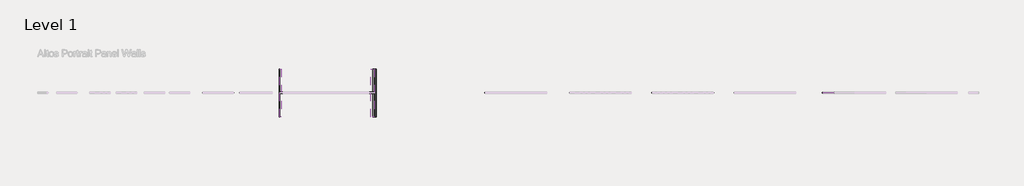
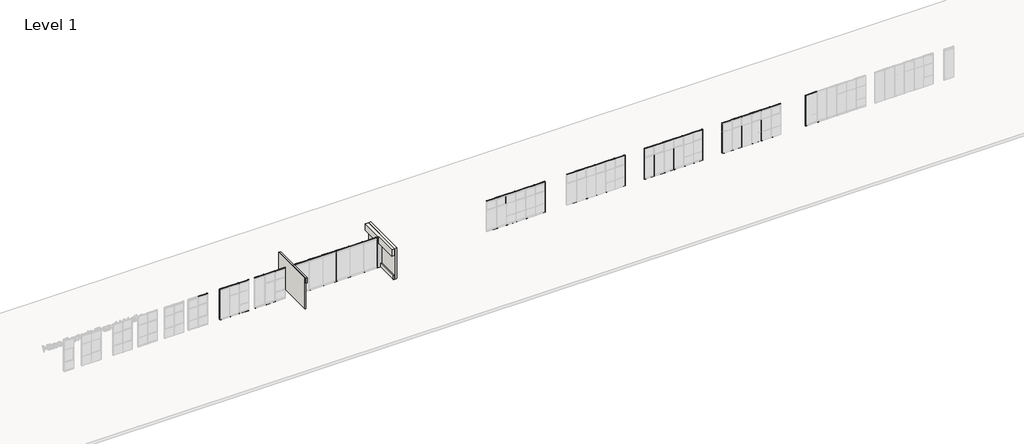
# One storey, part 3 of 22: 123 members, 5 walls, 2 plates.
"""IFC4 building model written with IfcOpenShell, lengths in millimetres."""

from ifc_helpers import new_model, si_unit, frame, origin, origin_with_axes, place, context, project, spatial, polyline, outline, extrude, faceted_brep, transform, mapped, element, save
from components import rectangular_mullion_64c34852, rectangular_mullion_58d0cef2, rectangular_mullion_50b1d124, rectangular_mullion_8e80d384, rectangular_mullion_eacba65d, rectangular_mullion_1a38ffc7, rectangular_mullion_54c82f83, rectangular_mullion_553b35be, rectangular_mullion_d5ff06bb, rectangular_mullion_frame_teknion_vertical_post_05f5e206, rectangular_mullion_frame_teknion_vertical_post_5ea4eea9, rectangular_mullion_frame_teknion_vertical_post_1fa3a907, plate_b7afd48b, plate_8aa06e61

model = new_model("IFC4")

# Units and contexts
model_context = context("Model", 3, world=origin())
ifc_project = project(units=[si_unit("LENGTHUNIT", "METRE", prefix="MILLI")], contexts=[model_context])

# Site, building, storey
site = spatial("IfcSite", under=ifc_project)
building = spatial("IfcBuilding", under=site)
storey = spatial("IfcBuildingStorey", under=building, Name="Level 1", Elevation=0.0)

# Members
placement = place(None, origin())
rectangular_mullion_shape = rectangular_mullion_64c34852(model_context)
element("IfcMember", 1, ObjectType="Rectangular Mullion : Frame-Teknion-Altos-Ceiling_Channel", at=placement, inside=storey, context=model_context, shape_type="MappedRepresentation", body=[
    mapped(rectangular_mullion_shape, transform((2463.5069004, 1812.3522105, 3048.0), x_axis=(0.0, 0.0, 1.0), y_axis=(0.0, -1.0, 0.0), z_axis=(1.0, 0.0, 0.0))),
])
element("IfcMember", 2, ObjectType="Rectangular Mullion : Frame-Teknion-Altos-Ceiling_Channel", at=placement, inside=storey, context=model_context, shape_type="MappedRepresentation", body=[
    mapped(rectangular_mullion_shape, transform((547.0967442, 1812.3522105, 3048.0), x_axis=(0.0, 0.0, 1.0), y_axis=(0.0, -1.0, 0.0), z_axis=(1.0, 0.0, 0.0))),
])
rectangular_mullion_2_shape = rectangular_mullion_58d0cef2(model_context)
element("IfcMember", 3, ObjectType="Rectangular Mullion : Frame-Teknion-Altos-Base_Channel", at=placement, inside=storey, context=model_context, shape_type="MappedRepresentation", body=[
    mapped(rectangular_mullion_2_shape, transform((-376.1337246, 1812.3522105, 0.0), x_axis=(0.0, 0.0, -1.0), y_axis=(0.0, -1.0, 0.0), z_axis=(-1.0, 0.0, 0.0))),
])
element("IfcMember", 4, ObjectType="Rectangular Mullion : Frame-Teknion-Altos-Base_Channel", at=placement, inside=storey, context=model_context, shape_type="MappedRepresentation", body=[
    mapped(rectangular_mullion_2_shape, transform((1540.2764317, 1812.3522105, 0.0), x_axis=(0.0, 0.0, -1.0), y_axis=(0.0, -1.0, 0.0), z_axis=(-1.0, 0.0, 0.0))),
])
rectangular_mullion_3_shape = rectangular_mullion_50b1d124(model_context)
element("IfcMember", 5, ObjectType="Rectangular Mullion : Frame-Teknion-Altos-Base_Channel", at=placement, inside=storey, context=model_context, shape_type="MappedRepresentation", body=[
    mapped(rectangular_mullion_3_shape, transform((575.0764317, 1812.3522105, 0.0), x_axis=(0.0, 0.0, -1.0), y_axis=(0.0, -1.0, 0.0), z_axis=(-1.0, 0.0, 0.0))),
])
element("IfcMember", 6, ObjectType="Rectangular Mullion : Frame-Teknion-Altos-Ceiling_Channel", at=placement, inside=storey, context=model_context, shape_type="MappedRepresentation", body=[
    mapped(rectangular_mullion_3_shape, transform((1512.2967442, 1812.3522105, 3048.0), x_axis=(0.0, 0.0, 1.0), y_axis=(0.0, -1.0, 0.0), z_axis=(1.0, 0.0, 0.0))),
])
rectangular_mullion_4_shape = rectangular_mullion_8e80d384(model_context)
element("IfcMember", 7, ObjectType="Rectangular Mullion : Frame-Teknion-Altos-Base_Channel", at=placement, inside=storey, context=model_context, shape_type="MappedRepresentation", body=[
    mapped(rectangular_mullion_4_shape, transform((51403.4018866, 1812.3522105, 0.0), x_axis=(0.0, 0.0, -1.0), y_axis=(0.0, -1.0, 0.0), z_axis=(-1.0, 0.0, 0.0))),
])
rectangular_mullion_5_shape = rectangular_mullion_eacba65d(model_context)
element("IfcMember", 8, ObjectType="Rectangular Mullion : Frame-Teknion-Altos-Ceiling_Channel", at=placement, inside=storey, context=model_context, shape_type="MappedRepresentation", body=[
    mapped(rectangular_mullion_5_shape, transform((52428.2323554, 1812.3522105, 3048.0), x_axis=(0.0, 0.0, 1.0), y_axis=(0.0, -1.0, 0.0), z_axis=(1.0, 0.0, 0.0))),
])
rectangular_mullion_6_shape = rectangular_mullion_1a38ffc7(model_context)
element("IfcMember", 9, ObjectType="Rectangular Mullion : Frame-Teknion-Altos-Base_Channel", at=placement, inside=storey, context=model_context, shape_type="MappedRepresentation", body=[
    mapped(rectangular_mullion_6_shape, transform((3445.2764317, 1812.3522105, 0.0), x_axis=(0.0, 0.0, -1.0), y_axis=(0.0, -1.0, 0.0), z_axis=(-1.0, 0.0, 0.0))),
])
element("IfcMember", 10, ObjectType="Rectangular Mullion : Frame-Teknion-Altos-Base_Channel", at=placement, inside=storey, context=model_context, shape_type="MappedRepresentation", body=[
    mapped(rectangular_mullion_6_shape, transform((5997.9764317, 1812.3522105, 0.0), x_axis=(0.0, 0.0, -1.0), y_axis=(0.0, -1.0, 0.0), z_axis=(-1.0, 0.0, 0.0))),
])
element("IfcMember", 11, ObjectType="Rectangular Mullion : Frame-Teknion-Altos-Base_Channel", at=placement, inside=storey, context=model_context, shape_type="MappedRepresentation", body=[
    mapped(rectangular_mullion_6_shape, transform((7274.3264317, 1812.3522105, 0.0), x_axis=(0.0, 0.0, -1.0), y_axis=(0.0, -1.0, 0.0), z_axis=(-1.0, 0.0, 0.0))),
])
element("IfcMember", 12, ObjectType="Rectangular Mullion : Frame-Teknion-Altos-Base_Channel", at=placement, inside=storey, context=model_context, shape_type="MappedRepresentation", body=[
    mapped(rectangular_mullion_6_shape, transform((8550.6764317, 1812.3522105, 0.0), x_axis=(0.0, 0.0, -1.0), y_axis=(0.0, -1.0, 0.0), z_axis=(-1.0, 0.0, 0.0))),
])
element("IfcMember", 13, ObjectType="Rectangular Mullion : Frame-Teknion-Altos-Base_Channel", at=placement, inside=storey, context=model_context, shape_type="MappedRepresentation", body=[
    mapped(rectangular_mullion_6_shape, transform((4721.6264317, 1812.3522105, 0.0), x_axis=(0.0, 0.0, -1.0), y_axis=(0.0, -1.0, 0.0), z_axis=(-1.0, 0.0, 0.0))),
])
element("IfcMember", 14, ObjectType="Rectangular Mullion : Frame-Teknion-Altos-Base_Channel", at=placement, inside=storey, context=model_context, shape_type="MappedRepresentation", body=[
    mapped(rectangular_mullion_6_shape, transform((9827.0264317, 1812.3522105, 0.0), x_axis=(0.0, 0.0, -1.0), y_axis=(0.0, -1.0, 0.0), z_axis=(-1.0, 0.0, 0.0))),
])
element("IfcMember", 15, ObjectType="Rectangular Mullion : Frame-Teknion-Altos-Ceiling_Channel", at=placement, inside=storey, context=model_context, shape_type="MappedRepresentation", body=[
    mapped(rectangular_mullion_6_shape, transform((5969.9967442, 1812.3522105, 3048.0), x_axis=(0.0, 0.0, 1.0), y_axis=(0.0, -1.0, 0.0), z_axis=(1.0, 0.0, 0.0))),
])
element("IfcMember", 16, ObjectType="Rectangular Mullion : Frame-Teknion-Altos-Ceiling_Channel", at=placement, inside=storey, context=model_context, shape_type="MappedRepresentation", body=[
    mapped(rectangular_mullion_6_shape, transform((7246.3467442, 1812.3522105, 3048.0), x_axis=(0.0, 0.0, 1.0), y_axis=(0.0, -1.0, 0.0), z_axis=(1.0, 0.0, 0.0))),
])
element("IfcMember", 17, ObjectType="Rectangular Mullion : Frame-Teknion-Altos-Ceiling_Channel", at=placement, inside=storey, context=model_context, shape_type="MappedRepresentation", body=[
    mapped(rectangular_mullion_6_shape, transform((8522.6967442, 1812.3522105, 3048.0), x_axis=(0.0, 0.0, 1.0), y_axis=(0.0, -1.0, 0.0), z_axis=(1.0, 0.0, 0.0))),
])
element("IfcMember", 18, ObjectType="Rectangular Mullion : Frame-Teknion-Altos-Ceiling_Channel", at=placement, inside=storey, context=model_context, shape_type="MappedRepresentation", body=[
    mapped(rectangular_mullion_6_shape, transform((11075.3967442, 1812.3522105, 3048.0), x_axis=(0.0, 0.0, 1.0), y_axis=(0.0, -1.0, 0.0), z_axis=(1.0, 0.0, 0.0))),
])
element("IfcMember", 19, ObjectType="Rectangular Mullion : Frame-Teknion-Altos-Ceiling_Channel", at=placement, inside=storey, context=model_context, shape_type="MappedRepresentation", body=[
    mapped(rectangular_mullion_6_shape, transform((4693.6467442, 1812.3522105, 3048.0), x_axis=(0.0, 0.0, 1.0), y_axis=(0.0, -1.0, 0.0), z_axis=(1.0, 0.0, 0.0))),
])
element("IfcMember", 20, ObjectType="Rectangular Mullion : Frame-Teknion-Altos-Ceiling_Channel", at=placement, inside=storey, context=model_context, shape_type="MappedRepresentation", body=[
    mapped(rectangular_mullion_6_shape, transform((9799.0467442, 1812.3522105, 3048.0), x_axis=(0.0, 0.0, 1.0), y_axis=(0.0, -1.0, 0.0), z_axis=(1.0, 0.0, 0.0))),
])
rectangular_mullion_7_shape = rectangular_mullion_54c82f83(model_context)
element("IfcMember", 21, ObjectType="Rectangular Mullion : Frame-Teknion-Altos-Ceiling_Channel", at=placement, inside=storey, context=model_context, shape_type="MappedRepresentation", body=[
    mapped(rectangular_mullion_7_shape, transform((-965.4930996, 1812.3522105, 3048.0), x_axis=(0.0, 0.0, 1.0), y_axis=(0.0, -1.0, 0.0), z_axis=(1.0, 0.0, 0.0))),
])
element("IfcMember", 22, ObjectType="Rectangular Mullion : Frame-Teknion-Altos-Ceiling_Channel", at=placement, inside=storey, context=model_context, shape_type="MappedRepresentation", body=[
    mapped(rectangular_mullion_7_shape, transform((-2780.3032558, 1812.3522105, 3048.0), x_axis=(0.0, 0.0, 1.0), y_axis=(0.0, -1.0, 0.0), z_axis=(1.0, 0.0, 0.0))),
])
element("IfcMember", 23, ObjectType="Rectangular Mullion : Frame-Teknion-Altos-Ceiling_Channel", at=placement, inside=storey, context=model_context, shape_type="MappedRepresentation", body=[
    mapped(rectangular_mullion_7_shape, transform((26857.616204, 1812.3522105, 3048.0), x_axis=(0.0, 0.0, 1.0), y_axis=(0.0, -1.0, 0.0), z_axis=(1.0, 0.0, 0.0))),
])
element("IfcMember", 24, ObjectType="Rectangular Mullion : Frame-Teknion-Altos-Ceiling_Channel", at=placement, inside=storey, context=model_context, shape_type="MappedRepresentation", body=[
    mapped(rectangular_mullion_7_shape, transform((34376.016204, 1812.3522105, 3048.0), x_axis=(0.0, 0.0, 1.0), y_axis=(0.0, -1.0, 0.0), z_axis=(1.0, 0.0, 0.0))),
])
element("IfcMember", 25, ObjectType="Rectangular Mullion : Frame-Teknion-Altos-Ceiling_Channel", at=placement, inside=storey, context=model_context, shape_type="MappedRepresentation", body=[
    mapped(rectangular_mullion_7_shape, transform((29818.0060478, 1812.3522105, 3048.0), x_axis=(0.0, 0.0, 1.0), y_axis=(0.0, -1.0, 0.0), z_axis=(1.0, 0.0, 0.0))),
])
element("IfcMember", 26, ObjectType="Rectangular Mullion : Frame-Teknion-Altos-Ceiling_Channel", at=placement, inside=storey, context=model_context, shape_type="MappedRepresentation", body=[
    mapped(rectangular_mullion_7_shape, transform((41691.216204, 1812.3522105, 3048.0), x_axis=(0.0, 0.0, 1.0), y_axis=(0.0, -1.0, 0.0), z_axis=(1.0, 0.0, 0.0))),
])
element("IfcMember", 27, ObjectType="Rectangular Mullion : Frame-Teknion-Altos-Ceiling_Channel", at=placement, inside=storey, context=model_context, shape_type="MappedRepresentation", body=[
    mapped(rectangular_mullion_7_shape, transform((37133.2060478, 1812.3522105, 3048.0), x_axis=(0.0, 0.0, 1.0), y_axis=(0.0, -1.0, 0.0), z_axis=(1.0, 0.0, 0.0))),
])
element("IfcMember", 28, ObjectType="Rectangular Mullion : Frame-Teknion-Altos-Ceiling_Channel", at=placement, inside=storey, context=model_context, shape_type="MappedRepresentation", body=[
    mapped(rectangular_mullion_7_shape, transform((49006.416204, 1812.3522105, 3048.0), x_axis=(0.0, 0.0, 1.0), y_axis=(0.0, -1.0, 0.0), z_axis=(1.0, 0.0, 0.0))),
])
element("IfcMember", 29, ObjectType="Rectangular Mullion : Frame-Teknion-Altos-Ceiling_Channel", at=placement, inside=storey, context=model_context, shape_type="MappedRepresentation", body=[
    mapped(rectangular_mullion_7_shape, transform((44448.4060478, 1812.3522105, 3048.0), x_axis=(0.0, 0.0, 1.0), y_axis=(0.0, -1.0, 0.0), z_axis=(1.0, 0.0, 0.0))),
])
element("IfcMember", 30, ObjectType="Rectangular Mullion : Frame-Teknion-Altos-Ceiling_Channel", at=placement, inside=storey, context=model_context, shape_type="MappedRepresentation", body=[
    mapped(rectangular_mullion_7_shape, transform((22299.6060478, 1812.3522105, 3048.0), x_axis=(0.0, 0.0, 1.0), y_axis=(0.0, -1.0, 0.0), z_axis=(1.0, 0.0, 0.0))),
])
element("IfcMember", 31, ObjectType="Rectangular Mullion : Frame-Teknion-Altos-Ceiling_Channel", at=placement, inside=storey, context=model_context, shape_type="MappedRepresentation", body=[
    mapped(rectangular_mullion_7_shape, transform((-4843.8756944, 1812.3522105, 3048.0), x_axis=(0.0, 0.0, 1.0), y_axis=(0.0, -1.0, 0.0), z_axis=(1.0, 0.0, 0.0))),
])
rectangular_mullion_8_shape = rectangular_mullion_553b35be(model_context)
element("IfcMember", 32, ObjectType="Rectangular Mullion : Frame-Teknion-Altos-Base_Channel", at=placement, inside=storey, context=model_context, shape_type="MappedRepresentation", body=[
    mapped(rectangular_mullion_8_shape, transform((-3652.7337246, 1812.3522105, 0.0), x_axis=(0.0, 0.0, -1.0), y_axis=(0.0, -1.0, 0.0), z_axis=(-1.0, 0.0, 0.0))),
])
element("IfcMember", 33, ObjectType="Rectangular Mullion : Frame-Teknion-Altos-Base_Channel", at=placement, inside=storey, context=model_context, shape_type="MappedRepresentation", body=[
    mapped(rectangular_mullion_8_shape, transform((-1837.9235683, 1812.3522105, 0.0), x_axis=(0.0, 0.0, -1.0), y_axis=(0.0, -1.0, 0.0), z_axis=(-1.0, 0.0, 0.0))),
])
element("IfcMember", 34, ObjectType="Rectangular Mullion : Frame-Teknion-Altos-Base_Channel", at=placement, inside=storey, context=model_context, shape_type="MappedRepresentation", body=[
    mapped(rectangular_mullion_8_shape, transform((21427.175579, 1812.3522105, 0.0), x_axis=(0.0, 0.0, -1.0), y_axis=(0.0, -1.0, 0.0), z_axis=(-1.0, 0.0, 0.0))),
])
element("IfcMember", 35, ObjectType="Rectangular Mullion : Frame-Teknion-Altos-Base_Channel", at=placement, inside=storey, context=model_context, shape_type="MappedRepresentation", body=[
    mapped(rectangular_mullion_8_shape, transform((28945.575579, 1812.3522105, 0.0), x_axis=(0.0, 0.0, -1.0), y_axis=(0.0, -1.0, 0.0), z_axis=(-1.0, 0.0, 0.0))),
])
element("IfcMember", 36, ObjectType="Rectangular Mullion : Frame-Teknion-Altos-Base_Channel", at=placement, inside=storey, context=model_context, shape_type="MappedRepresentation", body=[
    mapped(rectangular_mullion_8_shape, transform((33503.5857353, 1812.3522105, 0.0), x_axis=(0.0, 0.0, -1.0), y_axis=(0.0, -1.0, 0.0), z_axis=(-1.0, 0.0, 0.0))),
])
element("IfcMember", 37, ObjectType="Rectangular Mullion : Frame-Teknion-Altos-Base_Channel", at=placement, inside=storey, context=model_context, shape_type="MappedRepresentation", body=[
    mapped(rectangular_mullion_8_shape, transform((36260.775579, 1812.3522105, 0.0), x_axis=(0.0, 0.0, -1.0), y_axis=(0.0, -1.0, 0.0), z_axis=(-1.0, 0.0, 0.0))),
])
element("IfcMember", 38, ObjectType="Rectangular Mullion : Frame-Teknion-Altos-Base_Channel", at=placement, inside=storey, context=model_context, shape_type="MappedRepresentation", body=[
    mapped(rectangular_mullion_8_shape, transform((40818.7857353, 1812.3522105, 0.0), x_axis=(0.0, 0.0, -1.0), y_axis=(0.0, -1.0, 0.0), z_axis=(-1.0, 0.0, 0.0))),
])
element("IfcMember", 39, ObjectType="Rectangular Mullion : Frame-Teknion-Altos-Base_Channel", at=placement, inside=storey, context=model_context, shape_type="MappedRepresentation", body=[
    mapped(rectangular_mullion_8_shape, transform((43575.975579, 1812.3522105, 0.0), x_axis=(0.0, 0.0, -1.0), y_axis=(0.0, -1.0, 0.0), z_axis=(-1.0, 0.0, 0.0))),
])
element("IfcMember", 40, ObjectType="Rectangular Mullion : Frame-Teknion-Altos-Base_Channel", at=placement, inside=storey, context=model_context, shape_type="MappedRepresentation", body=[
    mapped(rectangular_mullion_8_shape, transform((48133.9857353, 1812.3522105, 0.0), x_axis=(0.0, 0.0, -1.0), y_axis=(0.0, -1.0, 0.0), z_axis=(-1.0, 0.0, 0.0))),
])
element("IfcMember", 41, ObjectType="Rectangular Mullion : Frame-Teknion-Altos-Base_Channel", at=placement, inside=storey, context=model_context, shape_type="MappedRepresentation", body=[
    mapped(rectangular_mullion_8_shape, transform((25985.1857353, 1812.3522105, 0.0), x_axis=(0.0, 0.0, -1.0), y_axis=(0.0, -1.0, 0.0), z_axis=(-1.0, 0.0, 0.0))),
])
rectangular_mullion_9_shape = rectangular_mullion_d5ff06bb(model_context)
element("IfcMember", 42, ObjectType="Rectangular Mullion : Frame-Teknion-Altos-Base_Channel", at=placement, inside=storey, context=model_context, shape_type="MappedRepresentation", body=[
    mapped(rectangular_mullion_9_shape, transform((-2752.3235683, 1812.3522105, 0.0), x_axis=(0.0, 0.0, -1.0), y_axis=(0.0, -1.0, 0.0), z_axis=(-1.0, 0.0, 0.0))),
])
element("IfcMember", 43, ObjectType="Rectangular Mullion : Frame-Teknion-Altos-Base_Channel", at=placement, inside=storey, context=model_context, shape_type="MappedRepresentation", body=[
    mapped(rectangular_mullion_9_shape, transform((52456.2120429, 1812.3522105, 0.0), x_axis=(0.0, 0.0, -1.0), y_axis=(0.0, -1.0, 0.0), z_axis=(-1.0, 0.0, 0.0))),
])
element("IfcMember", 44, ObjectType="Rectangular Mullion : Frame-Teknion-Altos-Base_Channel", at=placement, inside=storey, context=model_context, shape_type="MappedRepresentation", body=[
    mapped(rectangular_mullion_9_shape, transform((24156.3857353, 1812.3522105, 0.0), x_axis=(0.0, 0.0, -1.0), y_axis=(0.0, -1.0, 0.0), z_axis=(-1.0, 0.0, 0.0))),
])
element("IfcMember", 45, ObjectType="Rectangular Mullion : Frame-Teknion-Altos-Base_Channel", at=placement, inside=storey, context=model_context, shape_type="MappedRepresentation", body=[
    mapped(rectangular_mullion_9_shape, transform((23241.9857353, 1812.3522105, 0.0), x_axis=(0.0, 0.0, -1.0), y_axis=(0.0, -1.0, 0.0), z_axis=(-1.0, 0.0, 0.0))),
])
element("IfcMember", 46, ObjectType="Rectangular Mullion : Frame-Teknion-Altos-Base_Channel", at=placement, inside=storey, context=model_context, shape_type="MappedRepresentation", body=[
    mapped(rectangular_mullion_9_shape, transform((32589.1857353, 1812.3522105, 0.0), x_axis=(0.0, 0.0, -1.0), y_axis=(0.0, -1.0, 0.0), z_axis=(-1.0, 0.0, 0.0))),
])
element("IfcMember", 47, ObjectType="Rectangular Mullion : Frame-Teknion-Altos-Base_Channel", at=placement, inside=storey, context=model_context, shape_type="MappedRepresentation", body=[
    mapped(rectangular_mullion_9_shape, transform((31674.7857353, 1812.3522105, 0.0), x_axis=(0.0, 0.0, -1.0), y_axis=(0.0, -1.0, 0.0), z_axis=(-1.0, 0.0, 0.0))),
])
element("IfcMember", 48, ObjectType="Rectangular Mullion : Frame-Teknion-Altos-Base_Channel", at=placement, inside=storey, context=model_context, shape_type="MappedRepresentation", body=[
    mapped(rectangular_mullion_9_shape, transform((30760.3857353, 1812.3522105, 0.0), x_axis=(0.0, 0.0, -1.0), y_axis=(0.0, -1.0, 0.0), z_axis=(-1.0, 0.0, 0.0))),
])
element("IfcMember", 49, ObjectType="Rectangular Mullion : Frame-Teknion-Altos-Base_Channel", at=placement, inside=storey, context=model_context, shape_type="MappedRepresentation", body=[
    mapped(rectangular_mullion_9_shape, transform((29845.9857353, 1812.3522105, 0.0), x_axis=(0.0, 0.0, -1.0), y_axis=(0.0, -1.0, 0.0), z_axis=(-1.0, 0.0, 0.0))),
])
element("IfcMember", 50, ObjectType="Rectangular Mullion : Frame-Teknion-Altos-Base_Channel", at=placement, inside=storey, context=model_context, shape_type="MappedRepresentation", body=[
    mapped(rectangular_mullion_9_shape, transform((39904.3857353, 1812.3522105, 0.0), x_axis=(0.0, 0.0, -1.0), y_axis=(0.0, -1.0, 0.0), z_axis=(-1.0, 0.0, 0.0))),
])
element("IfcMember", 51, ObjectType="Rectangular Mullion : Frame-Teknion-Altos-Base_Channel", at=placement, inside=storey, context=model_context, shape_type="MappedRepresentation", body=[
    mapped(rectangular_mullion_9_shape, transform((38989.9857353, 1812.3522105, 0.0), x_axis=(0.0, 0.0, -1.0), y_axis=(0.0, -1.0, 0.0), z_axis=(-1.0, 0.0, 0.0))),
])
element("IfcMember", 52, ObjectType="Rectangular Mullion : Frame-Teknion-Altos-Base_Channel", at=placement, inside=storey, context=model_context, shape_type="MappedRepresentation", body=[
    mapped(rectangular_mullion_9_shape, transform((38075.5857353, 1812.3522105, 0.0), x_axis=(0.0, 0.0, -1.0), y_axis=(0.0, -1.0, 0.0), z_axis=(-1.0, 0.0, 0.0))),
])
element("IfcMember", 53, ObjectType="Rectangular Mullion : Frame-Teknion-Altos-Base_Channel", at=placement, inside=storey, context=model_context, shape_type="MappedRepresentation", body=[
    mapped(rectangular_mullion_9_shape, transform((37161.1857353, 1812.3522105, 0.0), x_axis=(0.0, 0.0, -1.0), y_axis=(0.0, -1.0, 0.0), z_axis=(-1.0, 0.0, 0.0))),
])
element("IfcMember", 54, ObjectType="Rectangular Mullion : Frame-Teknion-Altos-Base_Channel", at=placement, inside=storey, context=model_context, shape_type="MappedRepresentation", body=[
    mapped(rectangular_mullion_9_shape, transform((47219.5857353, 1812.3522105, 0.0), x_axis=(0.0, 0.0, -1.0), y_axis=(0.0, -1.0, 0.0), z_axis=(-1.0, 0.0, 0.0))),
])
element("IfcMember", 55, ObjectType="Rectangular Mullion : Frame-Teknion-Altos-Base_Channel", at=placement, inside=storey, context=model_context, shape_type="MappedRepresentation", body=[
    mapped(rectangular_mullion_9_shape, transform((46305.1857353, 1812.3522105, 0.0), x_axis=(0.0, 0.0, -1.0), y_axis=(0.0, -1.0, 0.0), z_axis=(-1.0, 0.0, 0.0))),
])
element("IfcMember", 56, ObjectType="Rectangular Mullion : Frame-Teknion-Altos-Base_Channel", at=placement, inside=storey, context=model_context, shape_type="MappedRepresentation", body=[
    mapped(rectangular_mullion_9_shape, transform((45390.7857353, 1812.3522105, 0.0), x_axis=(0.0, 0.0, -1.0), y_axis=(0.0, -1.0, 0.0), z_axis=(-1.0, 0.0, 0.0))),
])
element("IfcMember", 57, ObjectType="Rectangular Mullion : Frame-Teknion-Altos-Base_Channel", at=placement, inside=storey, context=model_context, shape_type="MappedRepresentation", body=[
    mapped(rectangular_mullion_9_shape, transform((44476.3857353, 1812.3522105, 0.0), x_axis=(0.0, 0.0, -1.0), y_axis=(0.0, -1.0, 0.0), z_axis=(-1.0, 0.0, 0.0))),
])
element("IfcMember", 58, ObjectType="Rectangular Mullion : Frame-Teknion-Altos-Base_Channel", at=placement, inside=storey, context=model_context, shape_type="MappedRepresentation", body=[
    mapped(rectangular_mullion_9_shape, transform((22327.5857353, 1812.3522105, 0.0), x_axis=(0.0, 0.0, -1.0), y_axis=(0.0, -1.0, 0.0), z_axis=(-1.0, 0.0, 0.0))),
])
element("IfcMember", 59, ObjectType="Rectangular Mullion : Frame-Teknion-Altos-Base_Channel", at=placement, inside=storey, context=model_context, shape_type="MappedRepresentation", body=[
    mapped(rectangular_mullion_9_shape, transform((25070.7857353, 1812.3522105, 0.0), x_axis=(0.0, 0.0, -1.0), y_axis=(0.0, -1.0, 0.0), z_axis=(-1.0, 0.0, 0.0))),
])
element("IfcMember", 60, ObjectType="Rectangular Mullion : Frame-Teknion-Altos-Ceiling_Channel", at=placement, inside=storey, context=model_context, shape_type="MappedRepresentation", body=[
    mapped(rectangular_mullion_9_shape, transform((-1865.9032558, 1812.3522105, 3048.0), x_axis=(0.0, 0.0, 1.0), y_axis=(0.0, -1.0, 0.0), z_axis=(1.0, 0.0, 0.0))),
])
element("IfcMember", 61, ObjectType="Rectangular Mullion : Frame-Teknion-Altos-Ceiling_Channel", at=placement, inside=storey, context=model_context, shape_type="MappedRepresentation", body=[
    mapped(rectangular_mullion_9_shape, transform((24128.4060478, 1812.3522105, 3048.0), x_axis=(0.0, 0.0, 1.0), y_axis=(0.0, -1.0, 0.0), z_axis=(1.0, 0.0, 0.0))),
])
element("IfcMember", 62, ObjectType="Rectangular Mullion : Frame-Teknion-Altos-Ceiling_Channel", at=placement, inside=storey, context=model_context, shape_type="MappedRepresentation", body=[
    mapped(rectangular_mullion_9_shape, transform((23214.0060478, 1812.3522105, 3048.0), x_axis=(0.0, 0.0, 1.0), y_axis=(0.0, -1.0, 0.0), z_axis=(1.0, 0.0, 0.0))),
])
element("IfcMember", 63, ObjectType="Rectangular Mullion : Frame-Teknion-Altos-Ceiling_Channel", at=placement, inside=storey, context=model_context, shape_type="MappedRepresentation", body=[
    mapped(rectangular_mullion_9_shape, transform((33475.6060478, 1812.3522105, 3048.0), x_axis=(0.0, 0.0, 1.0), y_axis=(0.0, -1.0, 0.0), z_axis=(1.0, 0.0, 0.0))),
])
element("IfcMember", 64, ObjectType="Rectangular Mullion : Frame-Teknion-Altos-Ceiling_Channel", at=placement, inside=storey, context=model_context, shape_type="MappedRepresentation", body=[
    mapped(rectangular_mullion_9_shape, transform((32561.2060478, 1812.3522105, 3048.0), x_axis=(0.0, 0.0, 1.0), y_axis=(0.0, -1.0, 0.0), z_axis=(1.0, 0.0, 0.0))),
])
element("IfcMember", 65, ObjectType="Rectangular Mullion : Frame-Teknion-Altos-Ceiling_Channel", at=placement, inside=storey, context=model_context, shape_type="MappedRepresentation", body=[
    mapped(rectangular_mullion_9_shape, transform((31646.8060478, 1812.3522105, 3048.0), x_axis=(0.0, 0.0, 1.0), y_axis=(0.0, -1.0, 0.0), z_axis=(1.0, 0.0, 0.0))),
])
element("IfcMember", 66, ObjectType="Rectangular Mullion : Frame-Teknion-Altos-Ceiling_Channel", at=placement, inside=storey, context=model_context, shape_type="MappedRepresentation", body=[
    mapped(rectangular_mullion_9_shape, transform((30732.4060478, 1812.3522105, 3048.0), x_axis=(0.0, 0.0, 1.0), y_axis=(0.0, -1.0, 0.0), z_axis=(1.0, 0.0, 0.0))),
])
element("IfcMember", 67, ObjectType="Rectangular Mullion : Frame-Teknion-Altos-Ceiling_Channel", at=placement, inside=storey, context=model_context, shape_type="MappedRepresentation", body=[
    mapped(rectangular_mullion_9_shape, transform((40790.8060478, 1812.3522105, 3048.0), x_axis=(0.0, 0.0, 1.0), y_axis=(0.0, -1.0, 0.0), z_axis=(1.0, 0.0, 0.0))),
])
element("IfcMember", 68, ObjectType="Rectangular Mullion : Frame-Teknion-Altos-Ceiling_Channel", at=placement, inside=storey, context=model_context, shape_type="MappedRepresentation", body=[
    mapped(rectangular_mullion_9_shape, transform((39876.4060478, 1812.3522105, 3048.0), x_axis=(0.0, 0.0, 1.0), y_axis=(0.0, -1.0, 0.0), z_axis=(1.0, 0.0, 0.0))),
])
element("IfcMember", 69, ObjectType="Rectangular Mullion : Frame-Teknion-Altos-Ceiling_Channel", at=placement, inside=storey, context=model_context, shape_type="MappedRepresentation", body=[
    mapped(rectangular_mullion_9_shape, transform((38962.0060478, 1812.3522105, 3048.0), x_axis=(0.0, 0.0, 1.0), y_axis=(0.0, -1.0, 0.0), z_axis=(1.0, 0.0, 0.0))),
])
element("IfcMember", 70, ObjectType="Rectangular Mullion : Frame-Teknion-Altos-Ceiling_Channel", at=placement, inside=storey, context=model_context, shape_type="MappedRepresentation", body=[
    mapped(rectangular_mullion_9_shape, transform((38047.6060478, 1812.3522105, 3048.0), x_axis=(0.0, 0.0, 1.0), y_axis=(0.0, -1.0, 0.0), z_axis=(1.0, 0.0, 0.0))),
])
element("IfcMember", 71, ObjectType="Rectangular Mullion : Frame-Teknion-Altos-Ceiling_Channel", at=placement, inside=storey, context=model_context, shape_type="MappedRepresentation", body=[
    mapped(rectangular_mullion_9_shape, transform((48106.0060478, 1812.3522105, 3048.0), x_axis=(0.0, 0.0, 1.0), y_axis=(0.0, -1.0, 0.0), z_axis=(1.0, 0.0, 0.0))),
])
element("IfcMember", 72, ObjectType="Rectangular Mullion : Frame-Teknion-Altos-Ceiling_Channel", at=placement, inside=storey, context=model_context, shape_type="MappedRepresentation", body=[
    mapped(rectangular_mullion_9_shape, transform((47191.6060478, 1812.3522105, 3048.0), x_axis=(0.0, 0.0, 1.0), y_axis=(0.0, -1.0, 0.0), z_axis=(1.0, 0.0, 0.0))),
])
element("IfcMember", 73, ObjectType="Rectangular Mullion : Frame-Teknion-Altos-Ceiling_Channel", at=placement, inside=storey, context=model_context, shape_type="MappedRepresentation", body=[
    mapped(rectangular_mullion_9_shape, transform((46277.2060478, 1812.3522105, 3048.0), x_axis=(0.0, 0.0, 1.0), y_axis=(0.0, -1.0, 0.0), z_axis=(1.0, 0.0, 0.0))),
])
element("IfcMember", 74, ObjectType="Rectangular Mullion : Frame-Teknion-Altos-Ceiling_Channel", at=placement, inside=storey, context=model_context, shape_type="MappedRepresentation", body=[
    mapped(rectangular_mullion_9_shape, transform((45362.8060478, 1812.3522105, 3048.0), x_axis=(0.0, 0.0, 1.0), y_axis=(0.0, -1.0, 0.0), z_axis=(1.0, 0.0, 0.0))),
])
element("IfcMember", 75, ObjectType="Rectangular Mullion : Frame-Teknion-Altos-Ceiling_Channel", at=placement, inside=storey, context=model_context, shape_type="MappedRepresentation", body=[
    mapped(rectangular_mullion_9_shape, transform((25042.8060478, 1812.3522105, 3048.0), x_axis=(0.0, 0.0, 1.0), y_axis=(0.0, -1.0, 0.0), z_axis=(1.0, 0.0, 0.0))),
])
element("IfcMember", 76, ObjectType="Rectangular Mullion : Frame-Teknion-Altos-Ceiling_Channel", at=placement, inside=storey, context=model_context, shape_type="MappedRepresentation", body=[
    mapped(rectangular_mullion_9_shape, transform((25957.2060478, 1812.3522105, 3048.0), x_axis=(0.0, 0.0, 1.0), y_axis=(0.0, -1.0, 0.0), z_axis=(1.0, 0.0, 0.0))),
])
rectangular_mullion_frame_teknion_vertical_post_shape = rectangular_mullion_frame_teknion_vertical_post_05f5e206(model_context)
element("IfcMember", 77, ObjectType="Rectangular Mullion : Frame-Teknion-Vertical_Post", at=placement, inside=storey, context=model_context, shape_type="MappedRepresentation", body=[
    mapped(rectangular_mullion_frame_teknion_vertical_post_shape, transform((11089.3865879, 1812.3522105, 0.0), x_axis=(1.0, 0.0, 0.0), y_axis=(0.0, -1.0, 0.0), z_axis=(0.0, 0.0, -1.0))),
])
element("IfcMember", 78, ObjectType="Rectangular Mullion : Frame-Teknion-Vertical_Post", at=placement, inside=storey, context=model_context, shape_type="MappedRepresentation", body=[
    mapped(rectangular_mullion_frame_teknion_vertical_post_shape, transform((3431.2865879, 1812.3522105, 0.0), x_axis=(1.0, 0.0, 0.0), y_axis=(0.0, -1.0, 0.0), z_axis=(0.0, 0.0, -1.0))),
])
element("IfcMember", 79, ObjectType="Rectangular Mullion : Frame-Teknion-Vertical_Post", at=placement, inside=storey, context=model_context, shape_type="MappedRepresentation", body=[
    mapped(rectangular_mullion_frame_teknion_vertical_post_shape, transform((5983.9865879, 1812.3522105, 0.0), x_axis=(1.0, 0.0, 0.0), y_axis=(0.0, -1.0, 0.0), z_axis=(0.0, 0.0, -1.0))),
])
element("IfcMember", 80, ObjectType="Rectangular Mullion : Frame-Teknion-Vertical_Post", at=placement, inside=storey, context=model_context, shape_type="MappedRepresentation", body=[
    mapped(rectangular_mullion_frame_teknion_vertical_post_shape, transform((7260.3365879, 1812.3522105, 0.0), x_axis=(1.0, 0.0, 0.0), y_axis=(0.0, -1.0, 0.0), z_axis=(0.0, 0.0, -1.0))),
])
element("IfcMember", 81, ObjectType="Rectangular Mullion : Frame-Teknion-Vertical_Post", at=placement, inside=storey, context=model_context, shape_type="MappedRepresentation", body=[
    mapped(rectangular_mullion_frame_teknion_vertical_post_shape, transform((8536.6865879, 1812.3522105, 0.0), x_axis=(1.0, 0.0, 0.0), y_axis=(0.0, -1.0, 0.0), z_axis=(0.0, 0.0, -1.0))),
])
element("IfcMember", 82, ObjectType="Rectangular Mullion : Frame-Teknion-Vertical_Post", at=placement, inside=storey, context=model_context, shape_type="MappedRepresentation", body=[
    mapped(rectangular_mullion_frame_teknion_vertical_post_shape, transform((4707.6365879, 1812.3522105, 0.0), x_axis=(1.0, 0.0, 0.0), y_axis=(0.0, -1.0, 0.0), z_axis=(0.0, 0.0, -1.0))),
])
element("IfcMember", 83, ObjectType="Rectangular Mullion : Frame-Teknion-Vertical_Post", at=placement, inside=storey, context=model_context, shape_type="MappedRepresentation", body=[
    mapped(rectangular_mullion_frame_teknion_vertical_post_shape, transform((9813.0365879, 1812.3522105, 0.0), x_axis=(1.0, 0.0, 0.0), y_axis=(0.0, -1.0, 0.0), z_axis=(0.0, 0.0, -1.0))),
])
element("IfcMember", 84, ObjectType="Rectangular Mullion : Frame-Teknion-Vertical_Post", at=placement, inside=storey, context=model_context, shape_type="MappedRepresentation", body=[
    mapped(rectangular_mullion_frame_teknion_vertical_post_shape, transform((-2766.3134121, 1812.3522105, 0.0), x_axis=(1.0, 0.0, 0.0), y_axis=(0.0, -1.0, 0.0), z_axis=(0.0, 0.0, -1.0))),
])
element("IfcMember", 85, ObjectType="Rectangular Mullion : Frame-Teknion-Vertical_Post", at=placement, inside=storey, context=model_context, shape_type="MappedRepresentation", body=[
    mapped(rectangular_mullion_frame_teknion_vertical_post_shape, transform((-1851.9134121, 1812.3522105, 0.0), x_axis=(1.0, 0.0, 0.0), y_axis=(0.0, -1.0, 0.0), z_axis=(0.0, 0.0, -1.0))),
])
element("IfcMember", 86, ObjectType="Rectangular Mullion : Frame-Teknion-Vertical_Post", at=placement, inside=storey, context=model_context, shape_type="MappedRepresentation", body=[
    mapped(rectangular_mullion_frame_teknion_vertical_post_shape, transform((561.0865879, 1812.3522105, 0.0), x_axis=(1.0, 0.0, 0.0), y_axis=(0.0, -1.0, 0.0), z_axis=(0.0, 0.0, -1.0))),
])
element("IfcMember", 87, ObjectType="Rectangular Mullion : Frame-Teknion-Vertical_Post", at=placement, inside=storey, context=model_context, shape_type="MappedRepresentation", body=[
    mapped(rectangular_mullion_frame_teknion_vertical_post_shape, transform((1526.2865879, 1812.3522105, 0.0), x_axis=(1.0, 0.0, 0.0), y_axis=(0.0, -1.0, 0.0), z_axis=(0.0, 0.0, -1.0))),
])
element("IfcMember", 88, ObjectType="Rectangular Mullion : Frame-Teknion-Vertical_Post", at=placement, inside=storey, context=model_context, shape_type="MappedRepresentation", body=[
    mapped(rectangular_mullion_frame_teknion_vertical_post_shape, transform((52442.2221991, 1812.3522105, 0.0), x_axis=(1.0, 0.0, 0.0), y_axis=(0.0, -1.0, 0.0), z_axis=(0.0, 0.0, -1.0))),
])
element("IfcMember", 89, ObjectType="Rectangular Mullion : Frame-Teknion-Vertical_Post", at=placement, inside=storey, context=model_context, shape_type="MappedRepresentation", body=[
    mapped(rectangular_mullion_frame_teknion_vertical_post_shape, transform((24142.3958915, 1812.3522105, 0.0), x_axis=(1.0, 0.0, 0.0), y_axis=(0.0, -1.0, 0.0), z_axis=(0.0, 0.0, -1.0))),
])
element("IfcMember", 90, ObjectType="Rectangular Mullion : Frame-Teknion-Vertical_Post", at=placement, inside=storey, context=model_context, shape_type="MappedRepresentation", body=[
    mapped(rectangular_mullion_frame_teknion_vertical_post_shape, transform((23227.9958915, 1812.3522105, 0.0), x_axis=(1.0, 0.0, 0.0), y_axis=(0.0, -1.0, 0.0), z_axis=(0.0, 0.0, -1.0))),
])
element("IfcMember", 91, ObjectType="Rectangular Mullion : Frame-Teknion-Vertical_Post", at=placement, inside=storey, context=model_context, shape_type="MappedRepresentation", body=[
    mapped(rectangular_mullion_frame_teknion_vertical_post_shape, transform((33489.5958915, 1812.3522105, 0.0), x_axis=(1.0, 0.0, 0.0), y_axis=(0.0, -1.0, 0.0), z_axis=(0.0, 0.0, -1.0))),
])
element("IfcMember", 92, ObjectType="Rectangular Mullion : Frame-Teknion-Vertical_Post", at=placement, inside=storey, context=model_context, shape_type="MappedRepresentation", body=[
    mapped(rectangular_mullion_frame_teknion_vertical_post_shape, transform((32575.1958915, 1812.3522105, 0.0), x_axis=(1.0, 0.0, 0.0), y_axis=(0.0, -1.0, 0.0), z_axis=(0.0, 0.0, -1.0))),
])
element("IfcMember", 93, ObjectType="Rectangular Mullion : Frame-Teknion-Vertical_Post", at=placement, inside=storey, context=model_context, shape_type="MappedRepresentation", body=[
    mapped(rectangular_mullion_frame_teknion_vertical_post_shape, transform((31660.7958915, 1812.3522105, 0.0), x_axis=(1.0, 0.0, 0.0), y_axis=(0.0, -1.0, 0.0), z_axis=(0.0, 0.0, -1.0))),
])
element("IfcMember", 94, ObjectType="Rectangular Mullion : Frame-Teknion-Vertical_Post", at=placement, inside=storey, context=model_context, shape_type="MappedRepresentation", body=[
    mapped(rectangular_mullion_frame_teknion_vertical_post_shape, transform((30746.3958915, 1812.3522105, 0.0), x_axis=(1.0, 0.0, 0.0), y_axis=(0.0, -1.0, 0.0), z_axis=(0.0, 0.0, -1.0))),
])
element("IfcMember", 95, ObjectType="Rectangular Mullion : Frame-Teknion-Vertical_Post", at=placement, inside=storey, context=model_context, shape_type="MappedRepresentation", body=[
    mapped(rectangular_mullion_frame_teknion_vertical_post_shape, transform((29831.9958915, 1812.3522105, 0.0), x_axis=(1.0, 0.0, 0.0), y_axis=(0.0, -1.0, 0.0), z_axis=(0.0, 0.0, -1.0))),
])
element("IfcMember", 96, ObjectType="Rectangular Mullion : Frame-Teknion-Vertical_Post", at=placement, inside=storey, context=model_context, shape_type="MappedRepresentation", body=[
    mapped(rectangular_mullion_frame_teknion_vertical_post_shape, transform((40804.7958915, 1812.3522105, 0.0), x_axis=(1.0, 0.0, 0.0), y_axis=(0.0, -1.0, 0.0), z_axis=(0.0, 0.0, -1.0))),
])
element("IfcMember", 97, ObjectType="Rectangular Mullion : Frame-Teknion-Vertical_Post", at=placement, inside=storey, context=model_context, shape_type="MappedRepresentation", body=[
    mapped(rectangular_mullion_frame_teknion_vertical_post_shape, transform((39890.3958915, 1812.3522105, 0.0), x_axis=(1.0, 0.0, 0.0), y_axis=(0.0, -1.0, 0.0), z_axis=(0.0, 0.0, -1.0))),
])
element("IfcMember", 98, ObjectType="Rectangular Mullion : Frame-Teknion-Vertical_Post", at=placement, inside=storey, context=model_context, shape_type="MappedRepresentation", body=[
    mapped(rectangular_mullion_frame_teknion_vertical_post_shape, transform((38975.9958915, 1812.3522105, 0.0), x_axis=(1.0, 0.0, 0.0), y_axis=(0.0, -1.0, 0.0), z_axis=(0.0, 0.0, -1.0))),
])
element("IfcMember", 99, ObjectType="Rectangular Mullion : Frame-Teknion-Vertical_Post", at=placement, inside=storey, context=model_context, shape_type="MappedRepresentation", body=[
    mapped(rectangular_mullion_frame_teknion_vertical_post_shape, transform((38061.5958915, 1812.3522105, 0.0), x_axis=(1.0, 0.0, 0.0), y_axis=(0.0, -1.0, 0.0), z_axis=(0.0, 0.0, -1.0))),
])
element("IfcMember", 100, ObjectType="Rectangular Mullion : Frame-Teknion-Vertical_Post", at=placement, inside=storey, context=model_context, shape_type="MappedRepresentation", body=[
    mapped(rectangular_mullion_frame_teknion_vertical_post_shape, transform((37147.1958915, 1812.3522105, 0.0), x_axis=(1.0, 0.0, 0.0), y_axis=(0.0, -1.0, 0.0), z_axis=(0.0, 0.0, -1.0))),
])
element("IfcMember", 101, ObjectType="Rectangular Mullion : Frame-Teknion-Vertical_Post", at=placement, inside=storey, context=model_context, shape_type="MappedRepresentation", body=[
    mapped(rectangular_mullion_frame_teknion_vertical_post_shape, transform((48119.9958915, 1812.3522105, 0.0), x_axis=(1.0, 0.0, 0.0), y_axis=(0.0, -1.0, 0.0), z_axis=(0.0, 0.0, -1.0))),
])
element("IfcMember", 102, ObjectType="Rectangular Mullion : Frame-Teknion-Vertical_Post", at=placement, inside=storey, context=model_context, shape_type="MappedRepresentation", body=[
    mapped(rectangular_mullion_frame_teknion_vertical_post_shape, transform((47205.5958915, 1812.3522105, 0.0), x_axis=(1.0, 0.0, 0.0), y_axis=(0.0, -1.0, 0.0), z_axis=(0.0, 0.0, -1.0))),
])
element("IfcMember", 103, ObjectType="Rectangular Mullion : Frame-Teknion-Vertical_Post", at=placement, inside=storey, context=model_context, shape_type="MappedRepresentation", body=[
    mapped(rectangular_mullion_frame_teknion_vertical_post_shape, transform((46291.1958915, 1812.3522105, 0.0), x_axis=(1.0, 0.0, 0.0), y_axis=(0.0, -1.0, 0.0), z_axis=(0.0, 0.0, -1.0))),
])
element("IfcMember", 104, ObjectType="Rectangular Mullion : Frame-Teknion-Vertical_Post", at=placement, inside=storey, context=model_context, shape_type="MappedRepresentation", body=[
    mapped(rectangular_mullion_frame_teknion_vertical_post_shape, transform((45376.7958915, 1812.3522105, 0.0), x_axis=(1.0, 0.0, 0.0), y_axis=(0.0, -1.0, 0.0), z_axis=(0.0, 0.0, -1.0))),
])
element("IfcMember", 105, ObjectType="Rectangular Mullion : Frame-Teknion-Vertical_Post", at=placement, inside=storey, context=model_context, shape_type="MappedRepresentation", body=[
    mapped(rectangular_mullion_frame_teknion_vertical_post_shape, transform((44462.3958915, 1812.3522105, 0.0), x_axis=(1.0, 0.0, 0.0), y_axis=(0.0, -1.0, 0.0), z_axis=(0.0, 0.0, -1.0))),
])
element("IfcMember", 106, ObjectType="Rectangular Mullion : Frame-Teknion-Vertical_Post", at=placement, inside=storey, context=model_context, shape_type="MappedRepresentation", body=[
    mapped(rectangular_mullion_frame_teknion_vertical_post_shape, transform((22313.5958915, 1812.3522105, 0.0), x_axis=(1.0, 0.0, 0.0), y_axis=(0.0, -1.0, 0.0), z_axis=(0.0, 0.0, -1.0))),
])
element("IfcMember", 107, ObjectType="Rectangular Mullion : Frame-Teknion-Vertical_Post", at=placement, inside=storey, context=model_context, shape_type="MappedRepresentation", body=[
    mapped(rectangular_mullion_frame_teknion_vertical_post_shape, transform((25056.7958915, 1812.3522105, 0.0), x_axis=(1.0, 0.0, 0.0), y_axis=(0.0, -1.0, 0.0), z_axis=(0.0, 0.0, -1.0))),
])
element("IfcMember", 108, ObjectType="Rectangular Mullion : Frame-Teknion-Vertical_Post", at=placement, inside=storey, context=model_context, shape_type="MappedRepresentation", body=[
    mapped(rectangular_mullion_frame_teknion_vertical_post_shape, transform((25971.1958915, 1812.3522105, 0.0), x_axis=(1.0, 0.0, 0.0), y_axis=(0.0, -1.0, 0.0), z_axis=(0.0, 0.0, -1.0))),
])
element("IfcMember", 109, ObjectType="Rectangular Mullion : Frame-Teknion-Vertical_Post", at=placement, inside=storey, context=model_context, shape_type="MappedRepresentation", body=[
    mapped(rectangular_mullion_frame_teknion_vertical_post_shape, transform((-5730.2960069, 1812.3522105, 0.0), x_axis=(1.0, 0.0, 0.0), y_axis=(0.0, -1.0, 0.0), z_axis=(0.0, 0.0, -1.0))),
])
rectangular_mullion_frame_teknion_vertical_post_2_shape = rectangular_mullion_frame_teknion_vertical_post_5ea4eea9(model_context)
element("IfcMember", 110, ObjectType="Rectangular Mullion : Frame-Teknion-Vertical_Post", at=placement, inside=storey, context=model_context, shape_type="MappedRepresentation", body=[
    mapped(rectangular_mullion_frame_teknion_vertical_post_2_shape, transform((-937.5134121, 1812.3522105, 0.0), x_axis=(1.0, 0.0, 0.0), y_axis=(0.0, -1.0, 0.0), z_axis=(0.0, 0.0, -1.0))),
])
element("IfcMember", 111, ObjectType="Rectangular Mullion : Frame-Teknion-Vertical_Post", at=placement, inside=storey, context=model_context, shape_type="MappedRepresentation", body=[
    mapped(rectangular_mullion_frame_teknion_vertical_post_2_shape, transform((2491.4865879, 1812.3522105, 0.0), x_axis=(1.0, 0.0, 0.0), y_axis=(0.0, -1.0, 0.0), z_axis=(0.0, 0.0, -1.0))),
])
element("IfcMember", 112, ObjectType="Rectangular Mullion : Frame-Teknion-Vertical_Post", at=placement, inside=storey, context=model_context, shape_type="MappedRepresentation", body=[
    mapped(rectangular_mullion_frame_teknion_vertical_post_2_shape, transform((26885.5958915, 1812.3522105, 0.0), x_axis=(1.0, 0.0, 0.0), y_axis=(0.0, -1.0, 0.0), z_axis=(0.0, 0.0, -1.0))),
])
element("IfcMember", 113, ObjectType="Rectangular Mullion : Frame-Teknion-Vertical_Post", at=placement, inside=storey, context=model_context, shape_type="MappedRepresentation", body=[
    mapped(rectangular_mullion_frame_teknion_vertical_post_2_shape, transform((34403.9958915, 1812.3522105, 0.0), x_axis=(1.0, 0.0, 0.0), y_axis=(0.0, -1.0, 0.0), z_axis=(0.0, 0.0, -1.0))),
])
element("IfcMember", 114, ObjectType="Rectangular Mullion : Frame-Teknion-Vertical_Post", at=placement, inside=storey, context=model_context, shape_type="MappedRepresentation", body=[
    mapped(rectangular_mullion_frame_teknion_vertical_post_2_shape, transform((41719.1958915, 1812.3522105, 0.0), x_axis=(1.0, 0.0, 0.0), y_axis=(0.0, -1.0, 0.0), z_axis=(0.0, 0.0, -1.0))),
])
element("IfcMember", 115, ObjectType="Rectangular Mullion : Frame-Teknion-Vertical_Post", at=placement, inside=storey, context=model_context, shape_type="MappedRepresentation", body=[
    mapped(rectangular_mullion_frame_teknion_vertical_post_2_shape, transform((49034.3958915, 1812.3522105, 0.0), x_axis=(1.0, 0.0, 0.0), y_axis=(0.0, -1.0, 0.0), z_axis=(0.0, 0.0, -1.0))),
])
element("IfcMember", 116, ObjectType="Rectangular Mullion : Frame-Teknion-Vertical_Post", at=placement, inside=storey, context=model_context, shape_type="MappedRepresentation", body=[
    mapped(rectangular_mullion_frame_teknion_vertical_post_2_shape, transform((-4815.8960069, 1812.3522105, 0.0), x_axis=(1.0, 0.0, 0.0), y_axis=(0.0, -1.0, 0.0), z_axis=(0.0, 0.0, -1.0))),
])
rectangular_mullion_frame_teknion_vertical_post_3_shape = rectangular_mullion_frame_teknion_vertical_post_1fa3a907(model_context)
element("IfcMember", 117, ObjectType="Rectangular Mullion : Frame-Teknion-Vertical_Post", at=placement, inside=storey, context=model_context, shape_type="MappedRepresentation", body=[
    mapped(rectangular_mullion_frame_teknion_vertical_post_3_shape, transform((-3680.7134121, 1812.3522105, 3048.0), x_axis=(-1.0, 0.0, 0.0), y_axis=(0.0, -1.0, 0.0), z_axis=(0.0, 0.0, 1.0))),
])
element("IfcMember", 118, ObjectType="Rectangular Mullion : Frame-Teknion-Vertical_Post", at=placement, inside=storey, context=model_context, shape_type="MappedRepresentation", body=[
    mapped(rectangular_mullion_frame_teknion_vertical_post_3_shape, transform((-404.1134121, 1812.3522105, 3048.0), x_axis=(-1.0, 0.0, 0.0), y_axis=(0.0, -1.0, 0.0), z_axis=(0.0, 0.0, 1.0))),
])
element("IfcMember", 119, ObjectType="Rectangular Mullion : Frame-Teknion-Vertical_Post", at=placement, inside=storey, context=model_context, shape_type="MappedRepresentation", body=[
    mapped(rectangular_mullion_frame_teknion_vertical_post_3_shape, transform((51375.4221991, 1812.3522105, 3048.0), x_axis=(-1.0, 0.0, 0.0), y_axis=(0.0, -1.0, 0.0), z_axis=(0.0, 0.0, 1.0))),
])
element("IfcMember", 120, ObjectType="Rectangular Mullion : Frame-Teknion-Vertical_Post", at=placement, inside=storey, context=model_context, shape_type="MappedRepresentation", body=[
    mapped(rectangular_mullion_frame_teknion_vertical_post_3_shape, transform((21399.1958915, 1812.3522105, 3048.0), x_axis=(-1.0, 0.0, 0.0), y_axis=(0.0, -1.0, 0.0), z_axis=(0.0, 0.0, 1.0))),
])
element("IfcMember", 121, ObjectType="Rectangular Mullion : Frame-Teknion-Vertical_Post", at=placement, inside=storey, context=model_context, shape_type="MappedRepresentation", body=[
    mapped(rectangular_mullion_frame_teknion_vertical_post_3_shape, transform((28917.5958915, 1812.3522105, 3048.0), x_axis=(-1.0, 0.0, 0.0), y_axis=(0.0, -1.0, 0.0), z_axis=(0.0, 0.0, 1.0))),
])
element("IfcMember", 122, ObjectType="Rectangular Mullion : Frame-Teknion-Vertical_Post", at=placement, inside=storey, context=model_context, shape_type="MappedRepresentation", body=[
    mapped(rectangular_mullion_frame_teknion_vertical_post_3_shape, transform((36232.7958915, 1812.3522105, 3048.0), x_axis=(-1.0, 0.0, 0.0), y_axis=(0.0, -1.0, 0.0), z_axis=(0.0, 0.0, 1.0))),
])
element("IfcMember", 123, ObjectType="Rectangular Mullion : Frame-Teknion-Vertical_Post", at=placement, inside=storey, context=model_context, shape_type="MappedRepresentation", body=[
    mapped(rectangular_mullion_frame_teknion_vertical_post_3_shape, transform((43547.9958915, 1812.3522105, 3048.0), x_axis=(-1.0, 0.0, 0.0), y_axis=(0.0, -1.0, 0.0), z_axis=(0.0, 0.0, 1.0))),
])

# Plates
plate_shape = plate_b7afd48b(model_context)
element("IfcPlate", 124, ObjectType="Panel-Filler-Teknion-Altos : FZFF", at=placement, inside=storey, context=model_context, shape_type="MappedRepresentation", body=[
    mapped(plate_shape, transform((11324.9815098, 1812.3522105, 0.0), x_axis=(1.0, 0.0, 0.0), y_axis=(0.0, 1.0, 0.0), z_axis=(0.0, 0.0, 1.0))),
])
plate_2_shape = plate_8aa06e61(model_context)
element("IfcPlate", 125, ObjectType="Panel-Filler-Teknion-Altos : FZFF", at=placement, inside=storey, context=model_context, shape_type="MappedRepresentation", body=[
    mapped(plate_2_shape, transform((3297.291666, 1812.3522105, 0.0), x_axis=(-1.0, 0.0, 0.0), y_axis=(0.0, -1.0, 0.0), z_axis=(0.0, 0.0, 1.0))),
])

# Walls
element("IfcWall", 126, ObjectType="Generic - 12\"", at=placement, inside=storey, context=model_context, shape_type="SweptSolid", body=[
    extrude(outline(polyline([(11241.7865879, -321.2477895), (11241.7865879, 3945.9522105), (11546.5865879, 3945.9522105), (11546.5865879, -321.2477895), (11241.7865879, -321.2477895)])), frame((0.0, 0.0, 2397.125), z_axis=(0.0, 0.0, 1.0), x_axis=(1.0, 0.0, 0.0)), (0.0, 0.0, 1.0), 650.875),
])
element("IfcWall", 127, ObjectType="Generic - 3\"", at=placement, inside=storey, context=model_context, shape_type="Brep", body=[
    faceted_brep([(3101.0865879, 3945.9522105, 0.0), (3101.0865879, -321.2477895, 0.0), (3101.0865879, -321.2477895, 3048.0), (3101.0865879, 3945.9522105, 3048.0), (3177.2865879, 3945.9522105, 0.0), (3177.2865879, 3945.9522105, 2524.125), (3177.2865879, 3945.9522105, 3048.0), (3177.2865879, -321.2477895, 3048.0), (3177.2865879, -321.2477895, 2524.125), (3177.2865879, -321.2477895, 0.0)], [[[0, 1, 2, 3]], [[4, 5, 6, 7, 8, 9]], [[1, 0, 4, 9]], [[2, 1, 9, 8, 7]], [[3, 2, 7, 6]], [[0, 3, 6, 5, 4]]]),
])
element("IfcWall", 128, ObjectType="Generic - 5\"", at=placement, inside=storey, context=model_context, shape_type="SweptSolid", body=[
    extrude(outline(polyline([(11419.5865879, -321.2477895), (11419.5865879, 3945.9522105), (11546.5865879, 3945.9522105), (11546.5865879, -321.2477895), (11419.5865879, -321.2477895)])), origin_with_axes(), (0.0, 0.0, 1.0), 381.0),
])
element("IfcWall", 129, ObjectType="Generic - 5\"", at=placement, inside=storey, context=model_context, shape_type="SweptSolid", body=[
    extrude(outline(polyline([(3177.2865879, -321.2477895), (3177.2865879, 3945.9522105), (3304.2865879, 3945.9522105), (3304.2865879, -321.2477895), (3177.2865879, -321.2477895)])), frame((0.0, 0.0, 2524.125), z_axis=(0.0, 0.0, 1.0), x_axis=(1.0, 0.0, 0.0)), (0.0, 0.0, 1.0), 523.875),
])
element("IfcWall", 130, ObjectType="Generic - 8\"", at=placement, inside=storey, context=model_context, shape_type="Brep", body=[
    faceted_brep([(11546.5865879, 3945.9522105, 0.0), (11546.5865879, -321.2477895, 0.0), (11546.5865879, -321.2477895, 381.0), (11546.5865879, -321.2477895, 2397.125), (11546.5865879, -321.2477895, 3048.0), (11546.5865879, 3945.9522105, 3048.0), (11546.5865879, 3945.9522105, 2397.125), (11546.5865879, 3945.9522105, 381.0), (11749.7865879, 3945.9522105, 0.0), (11749.7865879, 3945.9522105, 3048.0), (11749.7865879, -321.2477895, 3048.0), (11749.7865879, -321.2477895, 0.0)], [[[0, 1, 2, 3, 4, 5, 6, 7]], [[8, 9, 10, 11]], [[1, 0, 8, 11]], [[4, 3, 2, 1, 11, 10]], [[5, 4, 10, 9]], [[0, 7, 6, 5, 9, 8]]]),
])

save(model, "model.ifc")
